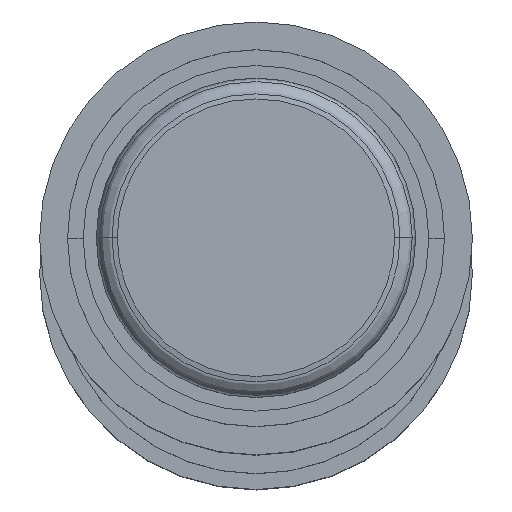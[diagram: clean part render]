
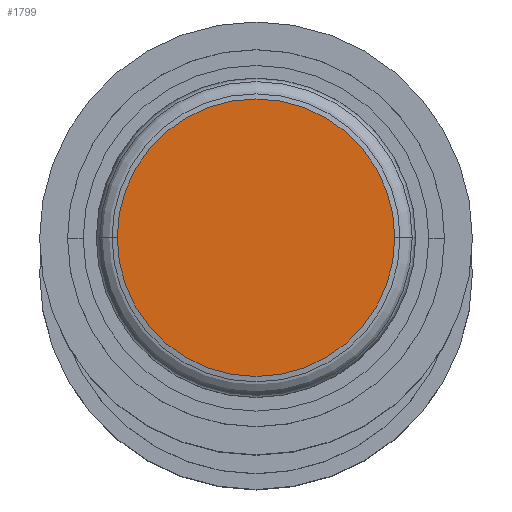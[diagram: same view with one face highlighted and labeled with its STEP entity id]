
A CAD part, top view. The second image highlights one B-rep face of the part: STEP entity #1799.
In plain terms, the highlighted planar face has unit normal (0, 0, 1).
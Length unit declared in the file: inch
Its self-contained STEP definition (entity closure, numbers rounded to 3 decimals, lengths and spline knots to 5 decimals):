
#33 = CARTESIAN_POINT ( 'NONE',  ( -0.06595, 0.05774, 0.1254 ) ) ;
#77 = EDGE_CURVE ( 'NONE', #2058, #1805, #847, .T. ) ;
#321 = EDGE_CURVE ( 'NONE', #1805, #2058, #2766, .T. ) ;
#524 = DIRECTION ( 'NONE',  ( 0., 0., -1. ) ) ;
#661 = FACE_OUTER_BOUND ( 'NONE', #2957, .T. ) ;
#743 = ORIENTED_EDGE ( 'NONE', *, *, #321, .T. ) ;
#787 = CARTESIAN_POINT ( 'NONE',  ( -0.0262, 0.05774, 0.1254 ) ) ;
#847 = CIRCLE ( 'NONE', #2368, 0.03975 ) ;
#977 = AXIS2_PLACEMENT_3D ( 'NONE', #2315, #524, #2076 ) ;
#1171 = DIRECTION ( 'NONE',  ( 1., 0., 0. ) ) ;
#1445 = CARTESIAN_POINT ( 'NONE',  ( -0.06595, 0.05774, 0.1254 ) ) ;
#1456 = CARTESIAN_POINT ( 'NONE',  ( -0.1057, 0.05774, 0.1254 ) ) ;
#1545 = DIRECTION ( 'NONE',  ( 0., 0., 1. ) ) ;
#1799 = ADVANCED_FACE ( 'NONE', ( #661 ), #2590, .F. ) ;
#1805 = VERTEX_POINT ( 'NONE', #787 ) ;
#2058 = VERTEX_POINT ( 'NONE', #1456 ) ;
#2076 = DIRECTION ( 'NONE',  ( -1., 0., 0. ) ) ;
#2315 = CARTESIAN_POINT ( 'NONE',  ( -0.06595, 0.09199, 0.1254 ) ) ;
#2368 = AXIS2_PLACEMENT_3D ( 'NONE', #33, #1545, #3094 ) ;
#2590 = PLANE ( 'NONE',  #977 ) ;
#2750 = AXIS2_PLACEMENT_3D ( 'NONE', #1445, #2981, #1171 ) ;
#2766 = CIRCLE ( 'NONE', #2750, 0.03975 ) ;
#2957 = EDGE_LOOP ( 'NONE', ( #743, #3131 ) ) ;
#2981 = DIRECTION ( 'NONE',  ( 0., 0., 1. ) ) ;
#3094 = DIRECTION ( 'NONE',  ( 1., 0., 0. ) ) ;
#3131 = ORIENTED_EDGE ( 'NONE', *, *, #77, .T. ) ;
